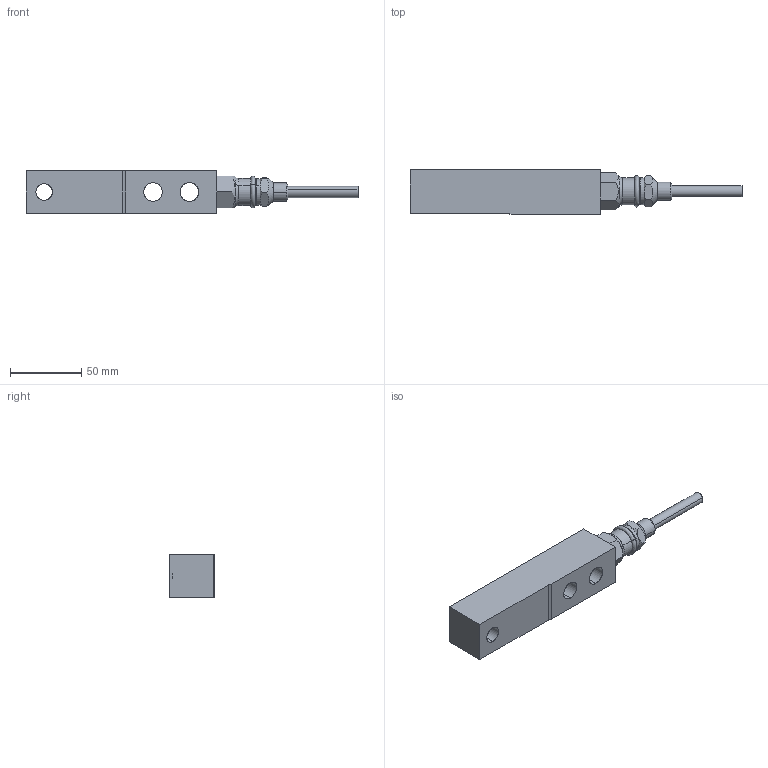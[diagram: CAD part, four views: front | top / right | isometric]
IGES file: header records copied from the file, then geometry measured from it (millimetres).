
Start section: SolidWorks IGES file using analytic representation for surfaces
Global section: file name: C:\0_Work\SolidWorks\0_Load Points\HI SBHC14 Series\HISBHC14-2.5KLB-5KLB.IGS; native system: SolidWorks 2020; preprocessor: SolidWorks 2020; author: vach01; date: 230630.121351; units: millimetre
Bounding box: 232.22 x 31 x 30 mm (x, y, z)
Surface area: 29999.8 mm2 (no closed solid volume)
Topology: 0 solids, 0 shells, 97 faces, 1464 edges, 1462 vertices
Faces by surface type: revolution 55, bspline 42
